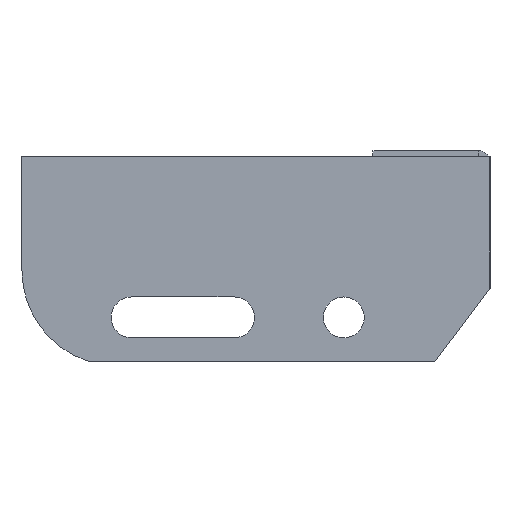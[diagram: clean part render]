
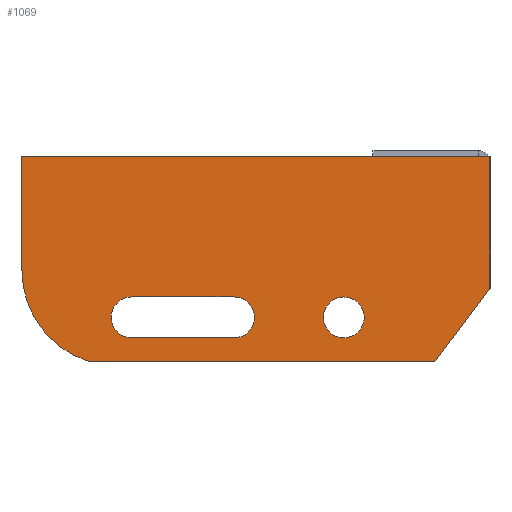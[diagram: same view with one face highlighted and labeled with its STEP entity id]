
A CAD part, left-side view. The second image highlights one B-rep face of the part: STEP entity #1069.
In plain terms, the highlighted planar face has unit normal (-1, 0, 0) as drawn and (0, 0, 1) by its records, which use the part's own axes.
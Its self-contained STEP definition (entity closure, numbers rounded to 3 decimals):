
#7 = CARTESIAN_POINT ( 'NONE',  ( -122.5, -62., 3. ) ) ;
#17 = CARTESIAN_POINT ( 'NONE',  ( -57., -55., 3. ) ) ;
#22 = VERTEX_POINT ( 'NONE', #1787 ) ;
#39 = CIRCLE ( 'NONE', #981, 7. ) ;
#43 = ORIENTED_EDGE ( 'NONE', *, *, #632, .T. ) ;
#68 = CARTESIAN_POINT ( 'NONE',  ( -50., -55., 3. ) ) ;
#71 = AXIS2_PLACEMENT_3D ( 'NONE', #456, #1075, #578 ) ;
#120 = VECTOR ( 'NONE', #831, 1000. ) ;
#161 = CARTESIAN_POINT ( 'NONE',  ( 0., 0., 3. ) ) ;
#170 = DIRECTION ( 'NONE',  ( 0., 0., 1. ) ) ;
#193 = EDGE_CURVE ( 'NONE', #913, #633, #39, .T. ) ;
#195 = CARTESIAN_POINT ( 'NONE',  ( -50., -55., 3. ) ) ;
#230 = VECTOR ( 'NONE', #631, 1000. ) ;
#244 = CARTESIAN_POINT ( 'NONE',  ( -127.5, -39., 3. ) ) ;
#286 = CARTESIAN_POINT ( 'NONE',  ( -137.26, -70., 3. ) ) ;
#292 = CARTESIAN_POINT ( 'NONE',  ( -160., 0., 3. ) ) ;
#344 = CARTESIAN_POINT ( 'NONE',  ( 0., -45., 3. ) ) ;
#352 = VERTEX_POINT ( 'NONE', #855 ) ;
#355 = CARTESIAN_POINT ( 'NONE',  ( -122.5, -48., 3. ) ) ;
#401 = DIRECTION ( 'NONE',  ( 1., 0., 0. ) ) ;
#414 = DIRECTION ( 'NONE',  ( 1., 0., 0. ) ) ;
#421 = VERTEX_POINT ( 'NONE', #1542 ) ;
#424 = DIRECTION ( 'NONE',  ( 1., 0., 0. ) ) ;
#429 = CIRCLE ( 'NONE', #531, 32.5 ) ;
#430 = DIRECTION ( 'NONE',  ( 0., 1., 0. ) ) ;
#447 = VECTOR ( 'NONE', #430, 1000. ) ;
#456 = CARTESIAN_POINT ( 'NONE',  ( -87.5, -55., 3. ) ) ;
#470 = DIRECTION ( 'NONE',  ( 0., 0., 1. ) ) ;
#493 = EDGE_CURVE ( 'NONE', #1287, #352, #1221, .T. ) ;
#495 = CARTESIAN_POINT ( 'NONE',  ( -122.5, -55., 3. ) ) ;
#508 = AXIS2_PLACEMENT_3D ( 'NONE', #244, #1321, #401 ) ;
#509 = EDGE_CURVE ( 'NONE', #421, #859, #1745, .T. ) ;
#524 = DIRECTION ( 'NONE',  ( 1., 0., 0. ) ) ;
#531 = AXIS2_PLACEMENT_3D ( 'NONE', #1573, #170, #1423 ) ;
#553 = EDGE_CURVE ( 'NONE', #890, #828, #903, .T. ) ;
#578 = DIRECTION ( 'NONE',  ( 1., 0., 0. ) ) ;
#601 = VECTOR ( 'NONE', #2017, 1000. ) ;
#630 = EDGE_CURVE ( 'NONE', #1758, #421, #1096, .T. ) ;
#631 = DIRECTION ( 'NONE',  ( 1., 0., 0. ) ) ;
#632 = EDGE_CURVE ( 'NONE', #758, #1287, #429, .T. ) ;
#633 = VERTEX_POINT ( 'NONE', #17 ) ;
#708 = ORIENTED_EDGE ( 'NONE', *, *, #924, .F. ) ;
#710 = CARTESIAN_POINT ( 'NONE',  ( -160., 0., 3. ) ) ;
#729 = LINE ( 'NONE', #757, #447 ) ;
#742 = CIRCLE ( 'NONE', #1599, 7. ) ;
#757 = CARTESIAN_POINT ( 'NONE',  ( 0., 0., 3. ) ) ;
#758 = VERTEX_POINT ( 'NONE', #968 ) ;
#759 = ORIENTED_EDGE ( 'NONE', *, *, #193, .F. ) ;
#775 = EDGE_CURVE ( 'NONE', #633, #913, #2008, .T. ) ;
#778 = DIRECTION ( 'NONE',  ( 1., 0., 0. ) ) ;
#824 = LINE ( 'NONE', #355, #601 ) ;
#828 = VERTEX_POINT ( 'NONE', #292 ) ;
#831 = DIRECTION ( 'NONE',  ( 0., -1., 0. ) ) ;
#832 = AXIS2_PLACEMENT_3D ( 'NONE', #195, #1576, #524 ) ;
#833 = CARTESIAN_POINT ( 'NONE',  ( -129.5, -55., 3. ) ) ;
#838 = ORIENTED_EDGE ( 'NONE', *, *, #841, .F. ) ;
#841 = EDGE_CURVE ( 'NONE', #859, #1814, #824, .T. ) ;
#855 = CARTESIAN_POINT ( 'NONE',  ( -18.839, -70., 3. ) ) ;
#859 = VERTEX_POINT ( 'NONE', #1129 ) ;
#885 = VECTOR ( 'NONE', #424, 1000. ) ;
#890 = VERTEX_POINT ( 'NONE', #1537 ) ;
#898 = EDGE_LOOP ( 'NONE', ( #1896, #708, #1899, #838, #1967 ) ) ;
#899 = VECTOR ( 'NONE', #1411, 1000. ) ;
#903 = LINE ( 'NONE', #161, #1678 ) ;
#913 = VERTEX_POINT ( 'NONE', #1455 ) ;
#924 = EDGE_CURVE ( 'NONE', #1009, #1758, #1294, .T. ) ;
#944 = EDGE_LOOP ( 'NONE', ( #1555, #1909, #1700, #43, #1276, #1136 ) ) ;
#968 = CARTESIAN_POINT ( 'NONE',  ( -160., -39., 3. ) ) ;
#981 = AXIS2_PLACEMENT_3D ( 'NONE', #68, #1494, #414 ) ;
#993 = FACE_BOUND ( 'NONE', #1115, .T. ) ;
#1009 = VERTEX_POINT ( 'NONE', #833 ) ;
#1012 = FACE_BOUND ( 'NONE', #898, .T. ) ;
#1057 = CARTESIAN_POINT ( 'NONE',  ( -122.5, -55., 3. ) ) ;
#1069 = ADVANCED_FACE ( 'NONE', ( #1951, #993, #1012 ), #1924, .T. ) ;
#1075 = DIRECTION ( 'NONE',  ( 0., 0., 1. ) ) ;
#1096 = LINE ( 'NONE', #7, #230 ) ;
#1098 = ORIENTED_EDGE ( 'NONE', *, *, #775, .F. ) ;
#1115 = EDGE_LOOP ( 'NONE', ( #1098, #759 ) ) ;
#1129 = CARTESIAN_POINT ( 'NONE',  ( -87.5, -48., 3. ) ) ;
#1136 = ORIENTED_EDGE ( 'NONE', *, *, #1407, .T. ) ;
#1221 = LINE ( 'NONE', #1688, #885 ) ;
#1242 = LINE ( 'NONE', #344, #899 ) ;
#1276 = ORIENTED_EDGE ( 'NONE', *, *, #493, .T. ) ;
#1287 = VERTEX_POINT ( 'NONE', #286 ) ;
#1294 = CIRCLE ( 'NONE', #1816, 7. ) ;
#1321 = DIRECTION ( 'NONE',  ( 0., 0., 1. ) ) ;
#1407 = EDGE_CURVE ( 'NONE', #352, #22, #1242, .T. ) ;
#1411 = DIRECTION ( 'NONE',  ( 0.602, 0.799, 0. ) ) ;
#1423 = DIRECTION ( 'NONE',  ( 1., 0., 0. ) ) ;
#1455 = CARTESIAN_POINT ( 'NONE',  ( -43., -55., 3. ) ) ;
#1494 = DIRECTION ( 'NONE',  ( 0., 0., 1. ) ) ;
#1537 = CARTESIAN_POINT ( 'NONE',  ( 0., 0., 3. ) ) ;
#1542 = CARTESIAN_POINT ( 'NONE',  ( -87.5, -62., 3. ) ) ;
#1555 = ORIENTED_EDGE ( 'NONE', *, *, #1855, .T. ) ;
#1573 = CARTESIAN_POINT ( 'NONE',  ( -127.5, -39., 3. ) ) ;
#1576 = DIRECTION ( 'NONE',  ( 0., 0., 1. ) ) ;
#1599 = AXIS2_PLACEMENT_3D ( 'NONE', #495, #470, #778 ) ;
#1656 = EDGE_CURVE ( 'NONE', #828, #758, #1770, .T. ) ;
#1678 = VECTOR ( 'NONE', #1731, 1000. ) ;
#1684 = CARTESIAN_POINT ( 'NONE',  ( -122.5, -48., 3. ) ) ;
#1688 = CARTESIAN_POINT ( 'NONE',  ( -18.839, -70., 3. ) ) ;
#1693 = CARTESIAN_POINT ( 'NONE',  ( -122.5, -62., 3. ) ) ;
#1700 = ORIENTED_EDGE ( 'NONE', *, *, #1656, .T. ) ;
#1731 = DIRECTION ( 'NONE',  ( -1., 0., 0. ) ) ;
#1745 = CIRCLE ( 'NONE', #71, 7. ) ;
#1753 = DIRECTION ( 'NONE',  ( 0., 0., 1. ) ) ;
#1758 = VERTEX_POINT ( 'NONE', #1693 ) ;
#1770 = LINE ( 'NONE', #710, #120 ) ;
#1787 = CARTESIAN_POINT ( 'NONE',  ( 0., -45., 3. ) ) ;
#1814 = VERTEX_POINT ( 'NONE', #1684 ) ;
#1816 = AXIS2_PLACEMENT_3D ( 'NONE', #1057, #1753, #1894 ) ;
#1855 = EDGE_CURVE ( 'NONE', #22, #890, #729, .T. ) ;
#1894 = DIRECTION ( 'NONE',  ( 1., 0., 0. ) ) ;
#1896 = ORIENTED_EDGE ( 'NONE', *, *, #630, .F. ) ;
#1899 = ORIENTED_EDGE ( 'NONE', *, *, #2013, .F. ) ;
#1909 = ORIENTED_EDGE ( 'NONE', *, *, #553, .T. ) ;
#1924 = PLANE ( 'NONE',  #508 ) ;
#1951 = FACE_OUTER_BOUND ( 'NONE', #944, .T. ) ;
#1967 = ORIENTED_EDGE ( 'NONE', *, *, #509, .F. ) ;
#2008 = CIRCLE ( 'NONE', #832, 7. ) ;
#2013 = EDGE_CURVE ( 'NONE', #1814, #1009, #742, .T. ) ;
#2017 = DIRECTION ( 'NONE',  ( -1., 0., 0. ) ) ;
